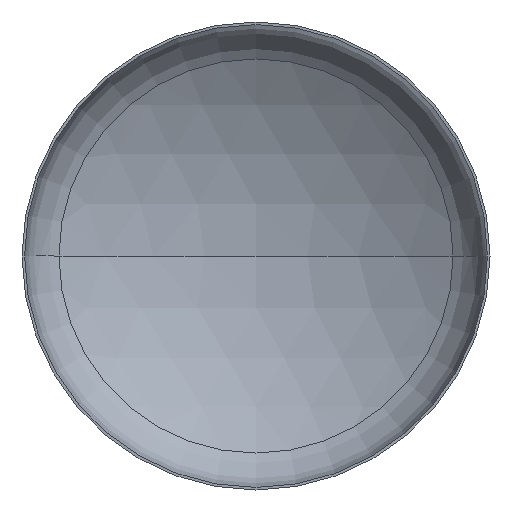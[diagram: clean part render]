
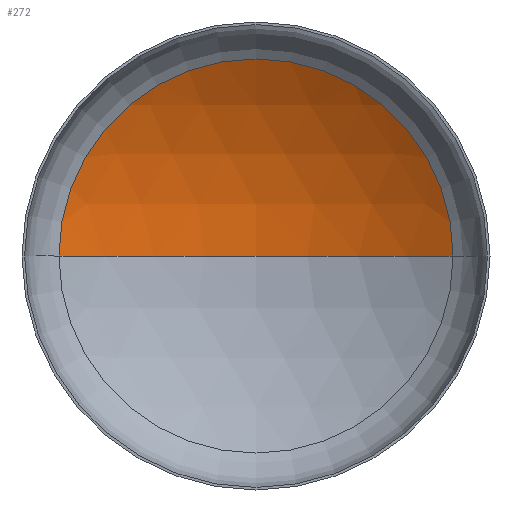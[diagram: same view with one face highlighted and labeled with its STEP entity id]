
A CAD part, front view. The second image highlights one B-rep face of the part: STEP entity #272.
In plain terms, the highlighted spherical face has radius 1600 mm.
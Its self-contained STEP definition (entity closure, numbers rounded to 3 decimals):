
#3 = EDGE_LOOP ( 'NONE', ( #49, #36, #9 ) ) ;
#5 = VERTEX_POINT ( 'NONE', #248 ) ;
#9 = ORIENTED_EDGE ( 'NONE', *, *, #65, .T. ) ;
#32 = VERTEX_POINT ( 'NONE', #244 ) ;
#36 = ORIENTED_EDGE ( 'NONE', *, *, #129, .T. ) ;
#49 = ORIENTED_EDGE ( 'NONE', *, *, #151, .F. ) ;
#60 = VERTEX_POINT ( 'NONE', #225 ) ;
#65 = EDGE_CURVE ( 'NONE', #5, #32, #97, .T. ) ;
#67 = CARTESIAN_POINT ( 'NONE',  ( 0., -1056.84, 0. ) ) ;
#97 = CIRCLE ( 'NONE', #203, 842.171 ) ;
#129 = EDGE_CURVE ( 'NONE', #60, #5, #277, .T. ) ;
#151 = EDGE_CURVE ( 'NONE', #60, #32, #404, .T. ) ;
#170 = DIRECTION ( 'NONE',  ( 0., 0., -1. ) ) ;
#173 = DIRECTION ( 'NONE',  ( -1., 0., 0. ) ) ;
#175 = AXIS2_PLACEMENT_3D ( 'NONE', #67, #170, #173 ) ;
#187 = CARTESIAN_POINT ( 'NONE',  ( 0., -1056.84, 0. ) ) ;
#189 = DIRECTION ( 'NONE',  ( 0., 0., 1. ) ) ;
#203 = AXIS2_PLACEMENT_3D ( 'NONE', #230, #334, #333 ) ;
#225 = CARTESIAN_POINT ( 'NONE',  ( 0., 543.16, 0. ) ) ;
#230 = CARTESIAN_POINT ( 'NONE',  ( 0., 303.582, 0. ) ) ;
#244 = CARTESIAN_POINT ( 'NONE',  ( -842.171, 303.582, 0. ) ) ;
#248 = CARTESIAN_POINT ( 'NONE',  ( 842.171, 303.582, 0. ) ) ;
#271 = AXIS2_PLACEMENT_3D ( 'NONE', #308, #305, #312 ) ;
#272 = ADVANCED_FACE ( 'NONE', ( #388 ), #378, .F. ) ;
#277 = CIRCLE ( 'NONE', #271, 1600. ) ;
#300 = DIRECTION ( 'NONE',  ( 1., 0., 0. ) ) ;
#305 = DIRECTION ( 'NONE',  ( 0., 0., -1. ) ) ;
#308 = CARTESIAN_POINT ( 'NONE',  ( 0., -1056.84, 0. ) ) ;
#310 = AXIS2_PLACEMENT_3D ( 'NONE', #187, #189, #300 ) ;
#312 = DIRECTION ( 'NONE',  ( -1., 0., 0. ) ) ;
#333 = DIRECTION ( 'NONE',  ( 1., 0., 0. ) ) ;
#334 = DIRECTION ( 'NONE',  ( 0., -1., 0. ) ) ;
#378 = SPHERICAL_SURFACE ( 'NONE', #175, 1600. ) ;
#388 = FACE_OUTER_BOUND ( 'NONE', #3, .T. ) ;
#404 = CIRCLE ( 'NONE', #310, 1600. ) ;
